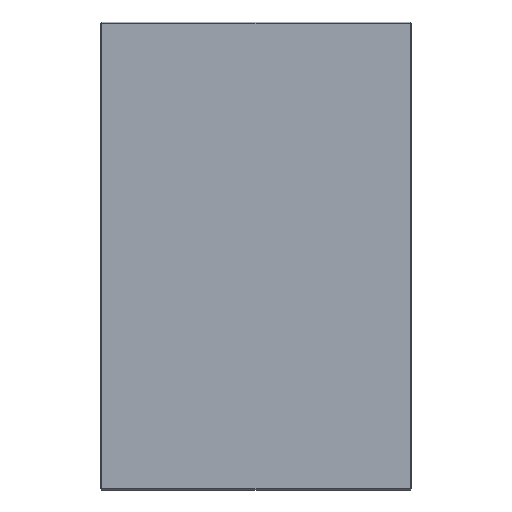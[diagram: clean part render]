
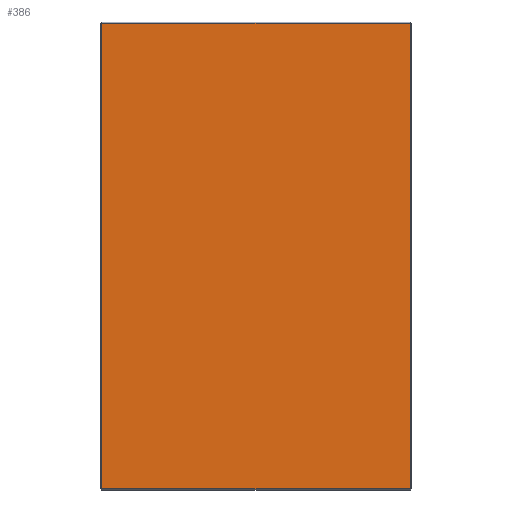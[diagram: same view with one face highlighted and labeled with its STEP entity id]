
A CAD part, front view. The second image highlights one B-rep face of the part: STEP entity #386.
In plain terms, the highlighted planar face has unit normal (0, -1, 0).
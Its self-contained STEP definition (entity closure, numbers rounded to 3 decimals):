
#10 = CARTESIAN_POINT ( 'NONE',  ( -147., 0., 222. ) ) ;
#20 = CARTESIAN_POINT ( 'NONE',  ( 0., 0., 0. ) ) ;
#22 = CARTESIAN_POINT ( 'NONE',  ( 147., 0., -222. ) ) ;
#24 = LINE ( 'NONE', #237, #59 ) ;
#45 = VECTOR ( 'NONE', #121, 1000. ) ;
#59 = VECTOR ( 'NONE', #171, 1000. ) ;
#98 = VERTEX_POINT ( 'NONE', #22 ) ;
#110 = LINE ( 'NONE', #618, #45 ) ;
#119 = PLANE ( 'NONE',  #470 ) ;
#121 = DIRECTION ( 'NONE',  ( 1., 0., 0. ) ) ;
#171 = DIRECTION ( 'NONE',  ( 0., 0., -1. ) ) ;
#199 = ORIENTED_EDGE ( 'NONE', *, *, #350, .T. ) ;
#208 = CARTESIAN_POINT ( 'NONE',  ( 147., 0., 222. ) ) ;
#219 = EDGE_CURVE ( 'NONE', #643, #98, #110, .T. ) ;
#235 = CARTESIAN_POINT ( 'NONE',  ( 0., 0., 222. ) ) ;
#237 = CARTESIAN_POINT ( 'NONE',  ( -147., 0., 0. ) ) ;
#248 = ORIENTED_EDGE ( 'NONE', *, *, #612, .T. ) ;
#273 = VECTOR ( 'NONE', #362, 1000. ) ;
#288 = ORIENTED_EDGE ( 'NONE', *, *, #219, .T. ) ;
#303 = LINE ( 'NONE', #555, #273 ) ;
#310 = CARTESIAN_POINT ( 'NONE',  ( -147., 0., -222. ) ) ;
#350 = EDGE_CURVE ( 'NONE', #562, #643, #24, .T. ) ;
#362 = DIRECTION ( 'NONE',  ( 0., 0., 1. ) ) ;
#386 = ADVANCED_FACE ( 'NONE', ( #644 ), #119, .F. ) ;
#410 = VERTEX_POINT ( 'NONE', #208 ) ;
#421 = DIRECTION ( 'NONE',  ( 0., 1., 0. ) ) ;
#466 = DIRECTION ( 'NONE',  ( 0., 0., 1. ) ) ;
#470 = AXIS2_PLACEMENT_3D ( 'NONE', #20, #421, #466 ) ;
#516 = LINE ( 'NONE', #235, #552 ) ;
#521 = EDGE_LOOP ( 'NONE', ( #248, #529, #199, #288 ) ) ;
#529 = ORIENTED_EDGE ( 'NONE', *, *, #568, .T. ) ;
#537 = DIRECTION ( 'NONE',  ( -1., 0., 0. ) ) ;
#552 = VECTOR ( 'NONE', #537, 1000. ) ;
#555 = CARTESIAN_POINT ( 'NONE',  ( 147., 0., 0. ) ) ;
#562 = VERTEX_POINT ( 'NONE', #10 ) ;
#568 = EDGE_CURVE ( 'NONE', #410, #562, #516, .T. ) ;
#612 = EDGE_CURVE ( 'NONE', #98, #410, #303, .T. ) ;
#618 = CARTESIAN_POINT ( 'NONE',  ( 0., 0., -222. ) ) ;
#643 = VERTEX_POINT ( 'NONE', #310 ) ;
#644 = FACE_OUTER_BOUND ( 'NONE', #521, .T. ) ;
